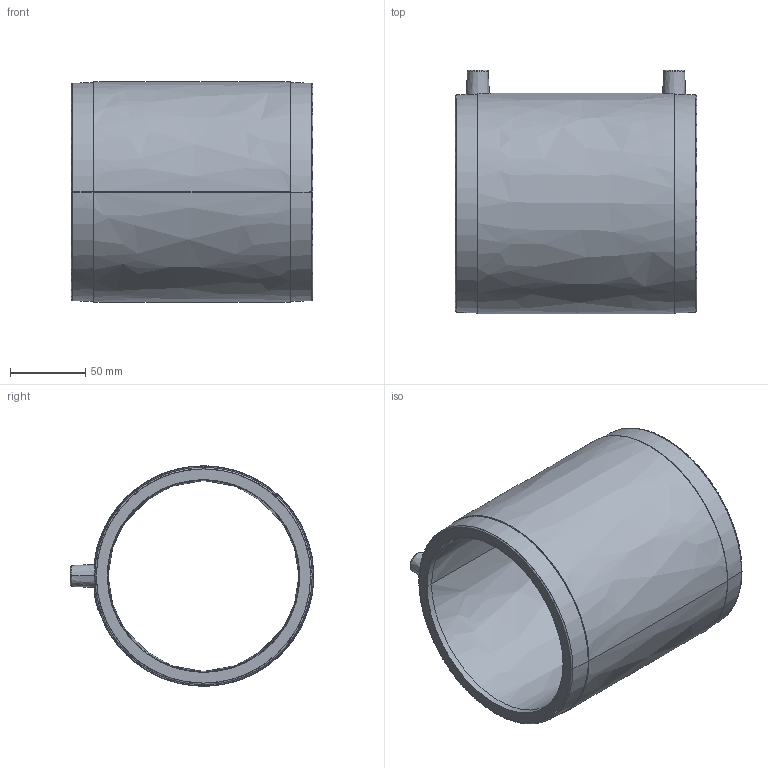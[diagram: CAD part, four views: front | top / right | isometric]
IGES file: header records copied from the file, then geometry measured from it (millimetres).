
Start section:  PTC IGES file: am_d125.igs
Global section: file name: am_d125.igs; native system: Pro/ENGINEER by Parametric Technology Corporation; preprocessor: 2011490; author: mtunjic; organization: Unknown; date: 20130729.163644; units: millimetre
Bounding box: 160 x 161.25 x 146 mm (x, y, z)
Surface area: 145353.2 mm2 (no closed solid volume)
Topology: 0 solids, 0 shells, 145 faces, 736 edges, 736 vertices
Faces by surface type: bspline 145
